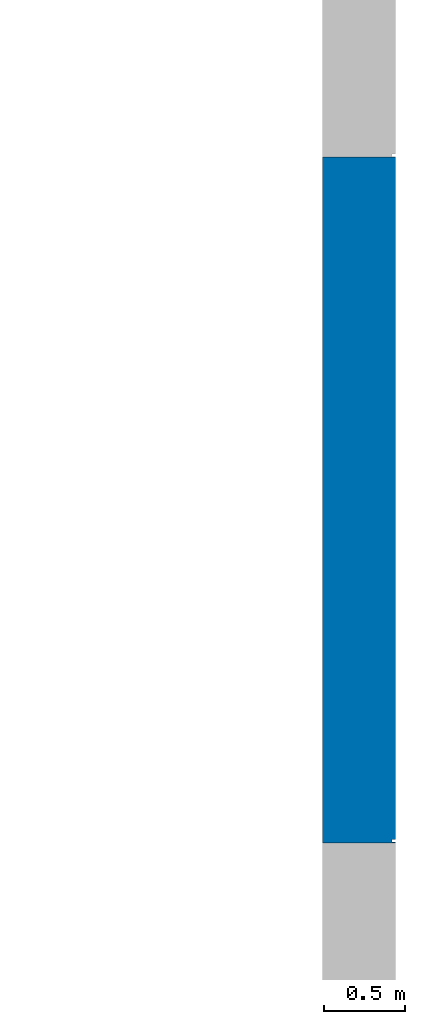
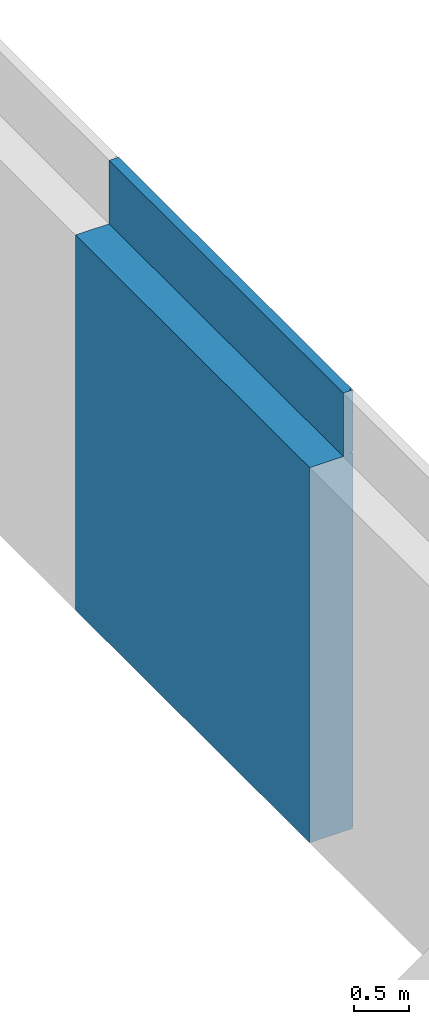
# One storey, part 19 of 33: 1 wall, 3 openings.
"""IFC2X3 building model written with IfcOpenShell, lengths in millimetres."""

import ifcopenshell
import ifcopenshell.guid

model = None  # the IFC model being written
_history = None  # IfcOwnerHistory: only IFC2X3 demands one
_inside = {}  # id of a spatial element -> (the spatial element, [elements in it])
_under = {}  # id of a project, library or spatial element -> (it, [spatial elements below it])
_declared = {}  # id of a project -> (the project, [libraries it declares])
_typed = {}  # id of a type object -> (the type object, [elements of that type])
_made_of = {}  # id of a material, layer set ... -> (it, [elements and type objects made of it])


def new_model(schema):
    """Start an empty IFC model of exactly this schema.

    Asked for "IFC4X3", IfcOpenShell would pick the latest addendum, in which some entities
    have other attributes; the version numbers below select the first issue.
    IFC2X3 requires an IfcOwnerHistory on every rooted entity: one is made here for all.
    """
    global model, _history
    if schema == "IFC4X3":
        model = ifcopenshell.file(schema_version=(4, 3, 0, 0))
    else:
        model = ifcopenshell.file(schema=schema)
    _inside.clear()
    _under.clear()
    _declared.clear()
    _typed.clear()
    _made_of.clear()
    _history = None
    if model.schema == "IFC2X3":
        org = make("IfcOrganization", Name="unknown")
        user = make(
            "IfcPersonAndOrganization",
            ThePerson=make("IfcPerson", FamilyName="unknown"),
            TheOrganization=org,
        )
        app = make(
            "IfcApplication",
            ApplicationDeveloper=org,
            Version="unknown",
            ApplicationFullName="unknown",
            ApplicationIdentifier="unknown",
        )
        _history = make(
            "IfcOwnerHistory",
            OwningUser=user,
            OwningApplication=app,
            ChangeAction="ADDED",
            CreationDate=0,
        )
    return model


def make(cls, **values):
    """One entity of the class cls with the attributes given. An attribute that is None is left unset."""
    return model.create_entity(
        cls, **{name: value for name, value in values.items() if value is not None}
    )


def entity(cls, *values):
    """Any entity or typed value of the class cls, its attributes in the order of the schema. None: left unset."""
    e = model.create_entity(cls)
    for i, value in enumerate(values):
        if value is not None:
            e[i] = value
    return e


def rooted(cls, **values):
    """An entity with a GlobalId (a new one), such as an element, a storey or a relation."""
    return make(cls, GlobalId=ifcopenshell.guid.new(), OwnerHistory=_history, **values)


def si_unit(unit_type, name, prefix=None):
    """IfcSIUnit, for example si_unit("LENGTHUNIT", "METRE", prefix="MILLI")."""
    return make("IfcSIUnit", UnitType=unit_type, Prefix=prefix, Name=name)


def converted_unit(unit_type, name, factor, base, dimensions=None, offset=None):
    """IfcConversionBasedUnit, such as the inch: factor (a typed value) times the base unit."""
    return make(
        "IfcConversionBasedUnit"
        if offset is None
        else "IfcConversionBasedUnitWithOffset",
        ConversionOffset=offset,
        Dimensions=None
        if dimensions is None
        else entity("IfcDimensionalExponents", *dimensions),
        UnitType=unit_type,
        Name=name,
        ConversionFactor=make(
            "IfcMeasureWithUnit", ValueComponent=factor, UnitComponent=base
        ),
    )


def derived_unit(unit_type, elements):
    """IfcDerivedUnit: a product of units, each with its exponent."""
    return make(
        "IfcDerivedUnit",
        Elements=[
            make("IfcDerivedUnitElement", Unit=unit, Exponent=power)
            for unit, power in elements
        ],
        UnitType=unit_type,
    )


def assignment(units):
    """IfcUnitAssignment: the units of a project."""
    return None if units is None else make("IfcUnitAssignment", Units=units)


def point(xyz):
    """IfcCartesianPoint."""
    return None if xyz is None else make("IfcCartesianPoint", Coordinates=xyz)


def direction(xyz):
    """IfcDirection."""
    return None if xyz is None else make("IfcDirection", DirectionRatios=xyz)


def frame(location, z_axis=None, x_axis=None):
    """IfcAxis2Placement3D, a coordinate frame: its origin and axes. An axis left out is left unset."""
    return make(
        "IfcAxis2Placement3D",
        Location=point(location),
        Axis=direction(z_axis),
        RefDirection=direction(x_axis),
    )


def frame_2d(location, x_axis=None):
    """IfcAxis2Placement2D, a coordinate frame in the plane: its origin and x axis."""
    return make(
        "IfcAxis2Placement2D", Location=point(location), RefDirection=direction(x_axis)
    )


def origin():
    """The frame at (0, 0, 0) with its axes left unset."""
    return frame((0.0, 0.0, 0.0))


def place(relative_to, where):
    """IfcLocalPlacement: puts the frame where relative to a parent placement (None: the world)."""
    return make(
        "IfcLocalPlacement", PlacementRelTo=relative_to, RelativePlacement=where
    )


def context(
    kind, dimensions, precision=None, world=None, true_north=None, identifier=None
):
    """IfcGeometricRepresentationContext, for example the 3D "Model" context."""
    return make(
        "IfcGeometricRepresentationContext",
        ContextIdentifier=identifier,
        ContextType=kind,
        CoordinateSpaceDimension=dimensions,
        Precision=precision,
        WorldCoordinateSystem=world,
        TrueNorth=true_north,
    )


def subcontext(parent, identifier, kind, view, scale=None):
    """IfcGeometricRepresentationSubContext, for example "Body" below "Model"."""
    return make(
        "IfcGeometricRepresentationSubContext",
        ContextIdentifier=identifier,
        ContextType=kind,
        ParentContext=parent,
        TargetScale=scale,
        TargetView=view,
    )


def project(units=None, contexts=None):
    """IfcProject with its units and contexts."""
    return rooted(
        "IfcProject",
        Name="project",
        RepresentationContexts=contexts,
        UnitsInContext=assignment(units),
    )


def spatial(cls, under=None, at=None, **own):
    """A site, building, storey or space (cls), placed at a placement, below another one or the project."""
    s = rooted(cls, ObjectPlacement=at, **own)
    if under is not None:
        _under.setdefault(under.id(), (under, []))[1].append(s)
    return s


def polyline(points):
    """IfcPolyline through the points."""
    return make("IfcPolyline", Points=[point(p) for p in points])


def profile(cls, at=None, kind="AREA", **sizes):
    """A parametric profile (cls). Its sizes go by their IFC names, for example OverallWidth=200.0."""
    return make(cls, ProfileType=kind, Position=at, **sizes)


def rectangle(**sizes):
    """IfcRectangleProfileDef."""
    return profile("IfcRectangleProfileDef", **sizes)


def extrude(swept, where, along, depth):
    """IfcExtrudedAreaSolid: the profile swept, set in the frame where, extruded along a direction by depth."""
    return make(
        "IfcExtrudedAreaSolid",
        SweptArea=swept,
        Position=where,
        ExtrudedDirection=direction(along),
        Depth=depth,
    )


def clip(a, b, op="DIFFERENCE"):
    """IfcBooleanClippingResult: the solid a cut by the half space b."""
    return make(
        "IfcBooleanClippingResult", Operator=op, FirstOperand=a, SecondOperand=b
    )


def bounded_halfspace(plane, agree, where, boundary):
    """IfcPolygonalBoundedHalfSpace: a half space limited to a polygon's prism."""
    return make(
        "IfcPolygonalBoundedHalfSpace",
        BaseSurface=make("IfcPlane", Position=plane),
        AgreementFlag=agree,
        Position=where,
        PolygonalBoundary=boundary,
    )


def faces_of(points, faces, orient=None, outer=None):
    """IfcFace entities. A face is a list of loops; a loop is a list of indices into points, from 0.

    orient and outer hold one flag for each loop. By default every Orientation is true, the
    first loop of a face is its IfcFaceOuterBound and the others are IfcFaceBound.
    """
    made = []
    for i, loops in enumerate(faces):
        bounds = []
        for j, loop in enumerate(loops):
            is_outer = j == 0 if outer is None else outer[i][j]
            bounds.append(
                make(
                    "IfcFaceOuterBound" if is_outer else "IfcFaceBound",
                    Bound=make("IfcPolyLoop", Polygon=[points[k] for k in loop]),
                    Orientation=True if orient is None else orient[i][j],
                )
            )
        made.append(make("IfcFace", Bounds=bounds))
    return made


def faceted_brep(points, faces, orient=None, outer=None, voids=None):
    """IfcFacetedBrep: a solid bounded by flat faces; with voids (closed shells), ...WithVoids."""
    shared = [point(p) for p in points]
    hull = make("IfcClosedShell", CfsFaces=faces_of(shared, faces, orient, outer))
    if voids is None:
        return make("IfcFacetedBrep", Outer=hull)
    return make(
        "IfcFacetedBrepWithVoids",
        Outer=hull,
        Voids=[
            make(cls, CfsFaces=faces_of(shared, fs, o, b)) for cls, fs, o, b in voids
        ],
    )


def shape(context_of_items, identifier, shape_type, items):
    """IfcShapeRepresentation: the items that make up one representation, for example the "Body"."""
    return make(
        "IfcShapeRepresentation",
        ContextOfItems=context_of_items,
        RepresentationIdentifier=identifier,
        RepresentationType=shape_type,
        Items=items,
    )


def material(Name=None, Category=None):
    """IfcMaterial."""
    return make("IfcMaterial", Name=Name, Category=Category)


def layer(
    of_material, thickness, ventilated=None, Name=None, Category=None, Priority=None
):
    """IfcMaterialLayer: one layer of a wall or slab, of a material (None: an air gap)."""
    return make(
        "IfcMaterialLayer",
        Material=of_material,
        LayerThickness=thickness,
        IsVentilated=ventilated,
        Name=Name,
        Category=Category,
        Priority=Priority,
    )


def layer_set(layers, Name=None):
    """IfcMaterialLayerSet."""
    return make("IfcMaterialLayerSet", MaterialLayers=layers, LayerSetName=Name)


def layer_usage(for_layer_set, set_direction, sense, offset, extent=None):
    """IfcMaterialLayerSetUsage: how a layer set lies in its element."""
    return make(
        "IfcMaterialLayerSetUsage",
        ForLayerSet=for_layer_set,
        LayerSetDirection=set_direction,
        DirectionSense=sense,
        OffsetFromReferenceLine=offset,
        ReferenceExtent=extent,
    )


def made_of(thing, what):
    """Note that an element or type object is made of a material, layer set ...; save() writes the relation."""
    if what is not None:
        _made_of.setdefault(what.id(), (what, []))[1].append(thing)
    return thing


def type_object(cls, material=None, **own):
    """A type object (cls), such as IfcWallType, which elements share."""
    return made_of(rooted(cls, **own), material)


def element(
    cls,
    number,
    at=None,
    inside=None,
    cuts=None,
    type_object=None,
    material=None,
    context=None,
    identifier="Body",
    shape_type=None,
    held_by="IfcProductDefinitionShape",
    body=None,
    shapes=None,
    **own,
):
    """One element of the class cls, such as IfcWall. Its Tag is "e" and its number.

    at: its placement. inside: the storey or other place that contains it. cuts: it is an
    opening in that element (IfcRelVoidsElement). A single representation is given by context,
    identifier, shape_type and body (its items); several are given by shapes. held_by: the class
    of the entity that holds the representations. save() writes the other relations.
    """
    e = rooted(cls, Tag="e%d" % number, ObjectPlacement=at, **own)
    if body is not None:
        shapes = [shape(context, identifier, shape_type, body)]
    if shapes is not None:
        e.Representation = make(held_by, Representations=shapes)
    if inside is not None:
        _inside.setdefault(inside.id(), (inside, []))[1].append(e)
    if cuts is not None:
        rooted(
            "IfcRelVoidsElement", RelatingBuildingElement=cuts, RelatedOpeningElement=e
        )
    if type_object is not None:
        _typed.setdefault(type_object.id(), (type_object, []))[1].append(e)
    return made_of(e, material)


def aggregate(whole, parts):
    """IfcRelAggregates: a whole, such as a stair, and the parts it consists of."""
    return rooted("IfcRelAggregates", RelatingObject=whole, RelatedObjects=parts)


def save(model, path):
    """Write the relations noted so far, then the file.

    IfcRelAggregates (storeys below a building ...), IfcRelContainedInSpatialStructure (elements
    in a storey), IfcRelDefinesByType, IfcRelAssociatesMaterial and IfcRelDeclares: one each for
    every whole, place, type object, material and project.
    """
    for whole, parts in _under.values():
        aggregate(whole, parts)
    for where, things in _inside.values():
        rooted(
            "IfcRelContainedInSpatialStructure",
            RelatedElements=things,
            RelatingStructure=where,
        )
    for kind, things in _typed.values():
        rooted("IfcRelDefinesByType", RelatedObjects=things, RelatingType=kind)
    for what, things in _made_of.values():
        rooted("IfcRelAssociatesMaterial", RelatedObjects=things, RelatingMaterial=what)
    for by, libraries in _declared.values():
        rooted("IfcRelDeclares", RelatingContext=by, RelatedDefinitions=libraries)
    model.write(path)


model = new_model("IFC2X3")

# Units and contexts
model_context = context("Model", 3, precision=0.01, world=origin(), true_north=direction((6.12303176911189e-17, 1.0)))
body_context = subcontext(model_context, "Body", "Model", "MODEL_VIEW")
ifc_project = project(units=[si_unit("LENGTHUNIT", "METRE", prefix="MILLI"), si_unit("AREAUNIT", "SQUARE_METRE"), si_unit("VOLUMEUNIT", "CUBIC_METRE"), converted_unit("PLANEANGLEUNIT", "DEGREE", entity("IfcRatioMeasure", 0.0174532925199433), si_unit("PLANEANGLEUNIT", "RADIAN"), dimensions=[0, 0, 0, 0, 0, 0, 0]), si_unit("MASSUNIT", "GRAM", prefix="KILO"), derived_unit("MASSDENSITYUNIT", [(si_unit("MASSUNIT", "GRAM", prefix="KILO"), 1), (si_unit("LENGTHUNIT", "METRE"), -3)]), si_unit("TIMEUNIT", "SECOND"), si_unit("FREQUENCYUNIT", "HERTZ"), si_unit("THERMODYNAMICTEMPERATUREUNIT", "DEGREE_CELSIUS"), derived_unit("THERMALTRANSMITTANCEUNIT", [(si_unit("MASSUNIT", "GRAM", prefix="KILO"), 1), (si_unit("THERMODYNAMICTEMPERATUREUNIT", "KELVIN"), -1), (si_unit("TIMEUNIT", "SECOND"), -3)]), derived_unit("VOLUMETRICFLOWRATEUNIT", [(si_unit("LENGTHUNIT", "METRE"), 3), (si_unit("TIMEUNIT", "SECOND"), -1)]), si_unit("ELECTRICCURRENTUNIT", "AMPERE"), si_unit("ELECTRICVOLTAGEUNIT", "VOLT"), si_unit("POWERUNIT", "WATT"), si_unit("FORCEUNIT", "NEWTON", prefix="KILO"), si_unit("ILLUMINANCEUNIT", "LUX"), si_unit("LUMINOUSFLUXUNIT", "LUMEN"), si_unit("LUMINOUSINTENSITYUNIT", "CANDELA"), derived_unit("USERDEFINED", [(si_unit("MASSUNIT", "GRAM", prefix="KILO"), -1), (si_unit("LENGTHUNIT", "METRE"), -2), (si_unit("TIMEUNIT", "SECOND"), 3), (si_unit("LUMINOUSFLUXUNIT", "LUMEN"), 1)]), derived_unit("LINEARVELOCITYUNIT", [(si_unit("LENGTHUNIT", "METRE"), 1), (si_unit("TIMEUNIT", "SECOND"), -1)]), si_unit("PRESSUREUNIT", "PASCAL"), derived_unit("USERDEFINED", [(si_unit("LENGTHUNIT", "METRE"), -2), (si_unit("MASSUNIT", "GRAM", prefix="KILO"), 1), (si_unit("TIMEUNIT", "SECOND"), -2)])], contexts=[model_context])

# Site, building, storey
site_placement = place(None, origin())
site = spatial("IfcSite", under=ifc_project, at=site_placement, Name="Default", CompositionType="ELEMENT")
building_placement = place(site_placement, origin())
building = spatial("IfcBuilding", under=site, at=building_placement, CompositionType="ELEMENT")
storey_placement = place(building_placement, frame((0.0, 0.0, 4000.0)))
storey = spatial("IfcBuildingStorey", under=building, at=storey_placement, Name="2. KORRUS", CompositionType="ELEMENT", Elevation=4000.0)

# Wall, openings
ifc_material_1 = material(Name="RECKLI 1 173 THUR by Polantis 2016-toon3")
ifc_layer_1 = layer(ifc_material_1, 100.0)
ifc_material_2 = material(Name="Soojusisolatsioon EPS")
ifc_layer_2 = layer(ifc_material_2, 200.0)
ifc_material_3 = material(Name="r/b")
ifc_layer_3 = layer(ifc_material_3, 150.0)
ifc_layer_set = layer_set([ifc_layer_1, ifc_layer_2, ifc_layer_3], Name="Basic Wall:VS-1_toon-b")
ifc_layer_usage = layer_usage(ifc_layer_set, "AXIS2", "NEGATIVE", 225.0)
wall_type = type_object("IfcWallType", Name="Basic Wall:VS-1_toon-b", PredefinedType="STANDARD", material=ifc_layer_set)
wall_placement = place(storey_placement, frame((39725.0, 8643.33, -135.0), z_axis=(0.0, 0.0, 1.0), x_axis=(0.0, -1.0, 0.0)))
wall = element("IfcWallStandardCase", 1, at=wall_placement, inside=storey, type_object=wall_type, material=ifc_layer_usage, Name="Basic Wall:VS-1_toon-b", ObjectType="Basic Wall:VS-1_toon-b", context=body_context, shape_type="Clipping", body=[
    clip(extrude(rectangle(XDim=4228.33000000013, YDim=450.000000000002, at=frame_2d((2114.16500000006, 3.45323769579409e-12), x_axis=(-1.0, 0.0))), origin(), (0.0, 0.0, 1.0), 4835.0), bounded_halfspace(frame((0.0, -225.0, 4135.0), z_axis=(0.0, 0.0, 1.0), x_axis=(0.0, 1.0, 0.0)), False, frame((0.0, -225.0, 4135.0)), polyline([(0.0, 0.0), (4228.33000000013, 0.0), (4228.33000000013, 350.0), (0.0, 350.0), (0.0, 0.0)]))),
])
opening_1_placement = place(wall_placement, origin())
element("IfcOpeningElement", 2, at=opening_1_placement, cuts=wall, Name="Basic Wall:VS-1_toon-b", ObjectType="Recess", context=body_context, shape_type="SweptSolid", body=[
    extrude(rectangle(XDim=4265.0, YDim=16.0000000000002, at=frame_2d((0.0, -2.70450328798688e-13), x_axis=(1.0, 0.0))), frame((4214.66, 205.0, -2132.5), z_axis=(0.0, 1.0, 0.0), x_axis=(0.0, 0.0, 1.0)), (0.0, 0.0, 1.0), 20.0000000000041),
    extrude(rectangle(XDim=4835.0, YDim=16.0000000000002, at=frame_2d((0.0, -2.70450328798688e-13), x_axis=(1.0, 0.0))), frame((4214.66, 205.0, 2417.5), z_axis=(0.0, 1.0, 0.0), x_axis=(0.0, 0.0, 1.0)), (0.0, 0.0, 1.0), 20.0000000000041),
])
opening_2_placement = place(wall_placement, frame((9093.33000000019, -40175.0, 4.0)))
element("IfcOpeningElement", 3, at=opening_2_placement, cuts=wall, Name="Basic Wall:VS-1_toon-b", ObjectType="Opening", context=body_context, shape_type="Brep", body=[
    faceted_brep([(-20.0, 11850.0, 16.0), (0.0, 11850.0, 16.0), (0.0, 11850.0, 0.0), (-20.0, 11850.0, 0.0), (-20.0, 4260.0, 16.0), (-20.0, 4260.0, 0.0), (0.0, 4260.0, 0.0), (0.0, 4260.0, 16.0)], [[[0, 1, 2, 3]], [[4, 5, 6, 7]], [[1, 0, 4, 7]], [[2, 1, 7, 6]], [[3, 2, 6, 5]], [[0, 3, 5, 4]]]),
    faceted_brep([(-28480.0, 20.0, 16.0), (-28480.0, 20.0, 0.0), (-28500.0, 0.0, 0.0), (-28500.0, 0.0, 16.0), (-23740.0, 20.0, 16.0), (-23740.0, 0.0, 16.0), (-23740.0, 0.0, 0.0), (-23740.0, 20.0, 0.0)], [[[0, 1, 2, 3]], [[4, 5, 6, 7]], [[1, 0, 4, 7]], [[2, 1, 7, 6]], [[3, 2, 6, 5]], [[0, 3, 5, 4]]]),
    faceted_brep([(-22380.0517807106, 10080.0, 16.0), (-22400.0517807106, 10100.0, 16.0), (-22400.0517807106, 10100.0, 0.0), (-22380.0517807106, 10080.0, 0.0), (-22380.0517807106, 15330.3475962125, 16.0), (-22380.0517807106, 15330.3475962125, 0.0), (-22400.0517807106, 15330.3475962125, 0.0), (-22400.0517807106, 15330.3475962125, 16.0)], [[[0, 1, 2, 3]], [[4, 5, 6, 7]], [[1, 0, 4, 7]], [[2, 1, 7, 6]], [[3, 2, 6, 5]], [[0, 3, 5, 4]]]),
    faceted_brep([(-28480.0, 20.0, 16.0), (-28500.0, 0.0, 16.0), (-28500.0, 0.0, 0.0), (-28480.0, 20.0, 0.0), (-28480.0, 4360.0, 16.0), (-28480.0, 4360.0, 0.0), (-28500.0, 4360.0, 0.0), (-28500.0, 4360.0, 16.0)], [[[0, 1, 2, 3]], [[4, 5, 6, 7]], [[1, 0, 4, 7]], [[2, 1, 7, 6]], [[3, 2, 6, 5]], [[0, 3, 5, 4]]]),
    faceted_brep([(-20.0, 40380.0, 16.0), (0.0, 40400.0, 16.0), (0.0, 40400.0, 0.0), (-20.0, 40380.0, 0.0), (-20.0, 35250.0, 16.0), (-20.0, 35250.0, 0.0), (0.0, 35250.0, 0.0), (0.0, 35250.0, 16.0)], [[[0, 1, 2, 3]], [[4, 5, 6, 7]], [[1, 0, 4, 7]], [[2, 1, 7, 6]], [[3, 2, 6, 5]], [[0, 3, 5, 4]]]),
    faceted_brep([(-22380.0517807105, 34420.1035702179, 16.0), (-22400.0517807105, 34420.1035702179, 16.0), (-22400.0517807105, 34420.1035702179, 0.0), (-22380.0517807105, 34420.1035702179, 0.0), (-22380.0517807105, 40380.0, 16.0), (-22380.0517807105, 40380.0, 0.0), (-22400.0517807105, 40400.0, 0.0), (-22400.0517807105, 40400.0, 16.0)], [[[0, 1, 2, 3]], [[4, 5, 6, 7]], [[1, 0, 4, 7]], [[2, 1, 7, 6]], [[3, 2, 6, 5]], [[0, 3, 5, 4]]]),
    faceted_brep([(-22380.0517807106, 29113.2161487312, 16.0), (-22400.0517807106, 29113.2161487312, 16.0), (-22400.0517807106, 29113.2161487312, 0.0), (-22380.0517807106, 29113.2161487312, 0.0), (-22380.0517807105, 34420.1035702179, 16.0), (-22380.0517807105, 34420.1035702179, 0.0), (-22400.0517807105, 34420.1035702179, 0.0), (-22400.0517807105, 34420.1035702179, 16.0)], [[[0, 1, 2, 3]], [[4, 5, 6, 7]], [[1, 0, 4, 7]], [[2, 1, 7, 6]], [[3, 2, 6, 5]], [[0, 3, 5, 4]]]),
    faceted_brep([(-28480.0, 10080.0, 16.0), (-28500.0, 10100.0, 16.0), (-28500.0, 10100.0, 0.0), (-28480.0, 10080.0, 0.0), (-22380.0517807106, 10080.0, 16.0), (-22380.0517807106, 10080.0, 0.0), (-22400.0517807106, 10100.0, 0.0), (-22400.0517807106, 10100.0, 16.0)], [[[0, 1, 2, 3]], [[4, 5, 6, 7]], [[1, 0, 4, 7]], [[2, 1, 7, 6]], [[3, 2, 6, 5]], [[0, 3, 5, 4]]]),
    faceted_brep([(-20.0, 4260.0, 16.0), (0.0, 4260.0, 16.0), (0.0, 4260.0, 0.0), (-20.0, 4260.0, 0.0), (-20.0, 0.0, 16.0), (-20.0, 0.0, 0.0), (0.0, 0.0, 0.0), (0.0, 0.0, 16.0)], [[[0, 1, 2, 3]], [[4, 5, 6, 7]], [[1, 0, 4, 7]], [[2, 1, 7, 6]], [[3, 2, 6, 5]], [[0, 3, 5, 4]]]),
    faceted_brep([(-4865.0, 40380.0, 16.0), (-4865.0, 40400.0, 16.0), (-4865.0, 40400.0, 0.0), (-4865.0, 40380.0, 0.0), (-20.0, 40380.0, 16.0), (-20.0, 40380.0, 0.0), (0.0, 40400.0, 0.0), (0.0, 40400.0, 16.0)], [[[0, 1, 2, 3]], [[4, 5, 6, 7]], [[1, 0, 4, 7]], [[2, 1, 7, 6]], [[3, 2, 6, 5]], [[0, 3, 5, 4]]]),
    faceted_brep([(-9093.3300000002, 40380.0, 16.0), (-9093.3300000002, 40400.0, 16.0), (-9093.3300000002, 40400.0, 0.0), (-9093.3300000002, 40380.0, 0.0), (-4865.0, 40380.0, 16.0), (-4865.0, 40380.0, 0.0), (-4865.0, 40400.0, 0.0), (-4865.0, 40400.0, 16.0)], [[[0, 1, 2, 3]], [[4, 5, 6, 7]], [[1, 0, 4, 7]], [[2, 1, 7, 6]], [[3, 2, 6, 5]], [[0, 3, 5, 4]]]),
    faceted_brep([(-13210.0, 40380.0, 16.0), (-13210.0, 40400.0, 16.0), (-13210.0, 40400.0, 0.0), (-13210.0, 40380.0, 0.0), (-9093.3300000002, 40380.0, 16.0), (-9093.3300000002, 40380.0, 0.0), (-9093.3300000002, 40400.0, 0.0), (-9093.3300000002, 40400.0, 16.0)], [[[0, 1, 2, 3]], [[4, 5, 6, 7]], [[1, 0, 4, 7]], [[2, 1, 7, 6]], [[3, 2, 6, 5]], [[0, 3, 5, 4]]]),
    faceted_brep([(-16240.0, 40380.0, 16.0), (-16240.0, 40400.0, 16.0), (-16240.0, 40400.0, 0.0), (-16240.0, 40380.0, 0.0), (-13210.0, 40380.0, 16.0), (-13210.0, 40380.0, 0.0), (-13210.0, 40400.0, 0.0), (-13210.0, 40400.0, 16.0)], [[[0, 1, 2, 3]], [[4, 5, 6, 7]], [[1, 0, 4, 7]], [[2, 1, 7, 6]], [[3, 2, 6, 5]], [[0, 3, 5, 4]]]),
    faceted_brep([(-22380.0517807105, 40380.0, 16.0), (-22400.0517807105, 40400.0, 16.0), (-22400.0517807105, 40400.0, 0.0), (-22380.0517807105, 40380.0, 0.0), (-16240.0, 40380.0, 16.0), (-16240.0, 40380.0, 0.0), (-16240.0, 40400.0, 0.0), (-16240.0, 40400.0, 16.0)], [[[0, 1, 2, 3]], [[4, 5, 6, 7]], [[1, 0, 4, 7]], [[2, 1, 7, 6]], [[3, 2, 6, 5]], [[0, 3, 5, 4]]]),
    faceted_brep([(-22380.0517807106, 22535.0, 16.0), (-22400.0517807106, 22535.0, 16.0), (-22400.0517807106, 22535.0, 0.0), (-22380.0517807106, 22535.0, 0.0), (-22380.0517807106, 29113.2161487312, 16.0), (-22380.0517807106, 29113.2161487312, 0.0), (-22400.0517807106, 29113.2161487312, 0.0), (-22400.0517807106, 29113.2161487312, 16.0)], [[[0, 1, 2, 3]], [[4, 5, 6, 7]], [[1, 0, 4, 7]], [[2, 1, 7, 6]], [[3, 2, 6, 5]], [[0, 3, 5, 4]]]),
    faceted_brep([(-22380.0517807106, 18703.3528910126, 16.0), (-22400.0517807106, 18703.3528910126, 16.0), (-22400.0517807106, 18703.3528910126, 0.0), (-22380.0517807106, 18703.3528910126, 0.0), (-22380.0517807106, 22535.0, 16.0), (-22380.0517807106, 22535.0, 0.0), (-22400.0517807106, 22535.0, 0.0), (-22400.0517807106, 22535.0, 16.0)], [[[0, 1, 2, 3]], [[4, 5, 6, 7]], [[1, 0, 4, 7]], [[2, 1, 7, 6]], [[3, 2, 6, 5]], [[0, 3, 5, 4]]]),
    faceted_brep([(-22380.0517807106, 15330.3475962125, 16.0), (-22400.0517807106, 15330.3475962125, 16.0), (-22400.0517807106, 15330.3475962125, 0.0), (-22380.0517807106, 15330.3475962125, 0.0), (-22380.0517807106, 18703.3528910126, 16.0), (-22380.0517807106, 18703.3528910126, 0.0), (-22400.0517807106, 18703.3528910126, 0.0), (-22400.0517807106, 18703.3528910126, 16.0)], [[[0, 1, 2, 3]], [[4, 5, 6, 7]], [[1, 0, 4, 7]], [[2, 1, 7, 6]], [[3, 2, 6, 5]], [[0, 3, 5, 4]]]),
    faceted_brep([(-28480.0, 4360.0, 16.0), (-28500.0, 4360.0, 16.0), (-28500.0, 4360.0, 0.0), (-28480.0, 4360.0, 0.0), (-28480.0, 10080.0, 16.0), (-28480.0, 10080.0, 0.0), (-28500.0, 10100.0, 0.0), (-28500.0, 10100.0, 16.0)], [[[0, 1, 2, 3]], [[4, 5, 6, 7]], [[1, 0, 4, 7]], [[2, 1, 7, 6]], [[3, 2, 6, 5]], [[0, 3, 5, 4]]]),
    faceted_brep([(-23740.0, 20.0, 16.0), (-23740.0, 20.0, 0.0), (-23740.0, 0.0, 0.0), (-23740.0, 0.0, 16.0), (-16890.0006972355, 20.0, 16.0), (-16890.0006972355, 0.0, 16.0), (-16890.0006972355, 0.0, 0.0), (-16890.0006972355, 20.0, 0.0)], [[[0, 1, 2, 3]], [[4, 5, 6, 7]], [[1, 0, 4, 7]], [[2, 1, 7, 6]], [[3, 2, 6, 5]], [[0, 3, 5, 4]]]),
    faceted_brep([(-16890.0006972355, 20.0, 16.0), (-16890.0006972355, 20.0, 0.0), (-16890.0006972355, 0.0, 0.0), (-16890.0006972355, 0.0, 16.0), (-13460.0, 20.0, 16.0), (-13460.0, 0.0, 16.0), (-13460.0, 0.0, 0.0), (-13460.0, 20.0, 0.0)], [[[0, 1, 2, 3]], [[4, 5, 6, 7]], [[1, 0, 4, 7]], [[2, 1, 7, 6]], [[3, 2, 6, 5]], [[0, 3, 5, 4]]]),
])
opening_3_placement = place(wall_placement, origin())
element("IfcOpeningElement", 4, at=opening_3_placement, cuts=wall, Name="Basic Wall:VS-1_toon-b", ObjectType="Recess", context=body_context, shape_type="SweptSolid", body=[
    extrude(rectangle(XDim=15.9999999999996, YDim=20.0, at=frame_2d((-3.37507799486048e-14, 5.40900657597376e-13), x_axis=(0.0, 1.0))), frame((9083.33000000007, -35915.0, 4147.0), z_axis=(0.0, 1.0, 0.0), x_axis=(1.0, 0.0, 0.0)), (0.0, 0.0, 1.0), 7590.0),
    extrude(rectangle(XDim=15.9999999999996, YDim=4660.0, at=frame_2d((-2.27373675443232e-12, 5.40900657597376e-13), x_axis=(0.0, 1.0))), frame((-16976.67, -40175.0, 4147.0), z_axis=(0.0, 1.0, 0.0), x_axis=(1.0, 0.0, 0.0)), (0.0, 0.0, 1.0), 20.0000000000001),
    extrude(rectangle(XDim=15.9999999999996, YDim=19.9999999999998, at=frame_2d((5.40900657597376e-13, -2.16626716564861e-12), x_axis=(1.0, 0.0))), frame((-13296.7217807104, -30075.0, 4147.0), z_axis=(0.0, 1.0, 0.0), x_axis=(0.0, 0.0, -1.0)), (0.0, 0.0, 1.0), 5230.3475962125),
    extrude(rectangle(XDim=15.9999999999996, YDim=19.9999999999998, at=frame_2d((5.40900657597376e-13, -2.16626716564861e-12), x_axis=(1.0, 0.0))), frame((-19396.67, -40175.0, 4147.0), z_axis=(0.0, 1.0, 0.0), x_axis=(0.0, 0.0, -1.0)), (0.0, 0.0, 1.0), 4360.0),
    extrude(rectangle(XDim=15.9999999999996, YDim=20.0, at=frame_2d((-3.37507799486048e-14, -5.40900657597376e-13), x_axis=(0.0, 1.0))), frame((9083.33000000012, -4925.0, 4147.0), z_axis=(0.0, 1.0, 0.0), x_axis=(1.0, 0.0, 0.0)), (0.0, 0.0, 1.0), 5050.0),
    extrude(rectangle(XDim=15.9999999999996, YDim=19.9999999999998, at=frame_2d((5.40900657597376e-13, -2.16626716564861e-12), x_axis=(1.0, 0.0))), frame((-13296.7217807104, -5754.89642978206, 4147.0), z_axis=(0.0, 1.0, 0.0), x_axis=(0.0, 0.0, -1.0)), (0.0, 0.0, 1.0), 5979.89642978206),
    extrude(rectangle(XDim=15.9999999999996, YDim=19.9999999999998, at=frame_2d((5.40900657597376e-13, -2.16626716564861e-12), x_axis=(1.0, 0.0))), frame((-13296.7217807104, -11061.7838512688, 4147.0), z_axis=(0.0, 1.0, 0.0), x_axis=(0.0, 0.0, -1.0)), (0.0, 0.0, 1.0), 5306.88742148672),
    extrude(rectangle(XDim=15.9999999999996, YDim=6099.94821928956, at=frame_2d((0.0, 0.0), x_axis=(0.0, 1.0))), frame((-16256.6958903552, -30095.0, 4147.0), z_axis=(0.0, 1.0, 0.0), x_axis=(1.0, 0.0, 0.0)), (0.0, 0.0, 1.0), 19.9999999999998),
    extrude(rectangle(XDim=15.9999999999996, YDim=20.0, at=frame_2d((-3.37507799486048e-14, 5.40900657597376e-13), x_axis=(0.0, 1.0))), frame((9083.33000000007, -40075.0, 4147.0), z_axis=(0.0, 1.0, 0.0), x_axis=(1.0, 0.0, 0.0)), (0.0, 0.0, 1.0), 4160.00000000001),
    extrude(rectangle(XDim=15.9999999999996, YDim=4865.0, at=frame_2d((0.0, 5.40900657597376e-13), x_axis=(0.0, 1.0))), frame((6660.83000000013, 205.0, 4147.0), z_axis=(0.0, 1.0, 0.0), x_axis=(1.0, 0.0, 0.0)), (0.0, 0.0, 1.0), 20.0000000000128),
    extrude(rectangle(XDim=15.9999999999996, YDim=4228.33000000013, at=frame_2d((0.0, 0.0), x_axis=(0.0, 1.0))), frame((2114.16500000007, 205.0, 4147.0), z_axis=(0.0, 1.0, 0.0), x_axis=(1.0, 0.0, 0.0)), (0.0, 0.0, 1.0), 20.0000000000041),
    extrude(rectangle(XDim=15.9999999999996, YDim=4236.66999997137, at=frame_2d((1.13686837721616e-12, 0.0), x_axis=(0.0, 1.0))), frame((-2118.33499998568, 205.0, 4147.0), z_axis=(0.0, 1.0, 0.0), x_axis=(1.0, 0.0, 0.0)), (0.0, 0.0, 1.0), 19.9999999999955),
    extrude(rectangle(XDim=15.9999999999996, YDim=2910.00000002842, at=frame_2d((2.1600499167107e-12, 5.40900657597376e-13), x_axis=(0.0, 1.0))), frame((-5691.66999998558, 205.0, 4147.0), z_axis=(0.0, 1.0, 0.0), x_axis=(1.0, 0.0, 0.0)), (0.0, 0.0, 1.0), 20.0000000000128),
    extrude(rectangle(XDim=15.9999999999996, YDim=6060.05178071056, at=frame_2d((0.0, 0.0), x_axis=(0.0, 1.0))), frame((-10176.6958903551, 205.0, 4147.0), z_axis=(0.0, 1.0, 0.0), x_axis=(1.0, 0.0, 0.0)), (0.0, 0.0, 1.0), 19.9999999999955),
    extrude(rectangle(XDim=15.9999999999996, YDim=19.9999999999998, at=frame_2d((5.40900657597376e-13, -2.16626716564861e-12), x_axis=(1.0, 0.0))), frame((-13296.7217807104, -21471.6471089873, 4147.0), z_axis=(0.0, 1.0, 0.0), x_axis=(0.0, 0.0, -1.0)), (0.0, 0.0, 1.0), 3831.64710898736),
    extrude(rectangle(XDim=15.9999999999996, YDim=19.9999999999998, at=frame_2d((5.40900657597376e-13, -2.16626716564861e-12), x_axis=(1.0, 0.0))), frame((-13296.7217807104, -24844.6524037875, 4147.0), z_axis=(0.0, 1.0, 0.0), x_axis=(0.0, 0.0, -1.0)), (0.0, 0.0, 1.0), 3373.00529480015),
    extrude(rectangle(XDim=15.9999999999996, YDim=19.9999999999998, at=frame_2d((5.40900657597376e-13, 2.16626716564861e-12), x_axis=(1.0, 0.0))), frame((-19396.67, -35815.0, 4147.0), z_axis=(0.0, 1.0, 0.0), x_axis=(0.0, 0.0, -1.0)), (0.0, 0.0, 1.0), 5739.99999999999),
    extrude(rectangle(XDim=15.9999999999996, YDim=6849.99930276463, at=frame_2d((1.13686837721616e-12, 5.40900657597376e-13), x_axis=(0.0, 1.0))), frame((-11221.6703486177, -40175.0, 4147.0), z_axis=(0.0, 1.0, 0.0), x_axis=(1.0, 0.0, 0.0)), (0.0, 0.0, 1.0), 20.0),
    extrude(rectangle(XDim=15.9999999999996, YDim=3430.00069726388, at=frame_2d((1.02318153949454e-12, 5.40900657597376e-13), x_axis=(0.0, 1.0))), frame((-6081.6703486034, -40175.0, 4147.0), z_axis=(0.0, 1.0, 0.0), x_axis=(1.0, 0.0, 0.0)), (0.0, 0.0, 1.0), 20.0000000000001),
    extrude(rectangle(XDim=15.9999999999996, YDim=19.9999999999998, at=frame_2d((5.40900657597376e-13, -2.16626716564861e-12), x_axis=(1.0, 0.0))), frame((-13296.7217807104, -17640.0, 4147.0), z_axis=(0.0, 1.0, 0.0), x_axis=(0.0, 0.0, -1.0)), (0.0, 0.0, 1.0), 6578.21614873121),
    extrude(rectangle(XDim=15.9999999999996, YDim=20.0, at=frame_2d((-3.37507799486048e-14, 5.40900657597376e-13), x_axis=(0.0, 1.0))), frame((9083.33000000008, -28325.0, 4147.0), z_axis=(0.0, 1.0, 0.0), x_axis=(1.0, 0.0, 0.0)), (0.0, 0.0, 1.0), 4110.00000000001),
    extrude(rectangle(XDim=15.9999999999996, YDim=20.0, at=frame_2d((-3.37507799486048e-14, 5.40900657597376e-13), x_axis=(0.0, 1.0))), frame((9083.33000000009, -24215.0, 4147.0), z_axis=(0.0, 1.0, 0.0), x_axis=(1.0, 0.0, 0.0)), (0.0, 0.0, 1.0), 4600.0),
    extrude(rectangle(XDim=15.9999999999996, YDim=20.0, at=frame_2d((3.37507799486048e-14, 5.40900657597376e-13), x_axis=(0.0, 1.0))), frame((9083.3300000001, -19615.0, 4147.0), z_axis=(0.0, 1.0, 0.0), x_axis=(1.0, 0.0, 0.0)), (0.0, 0.0, 1.0), 4600.0),
    extrude(rectangle(XDim=15.9999999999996, YDim=20.0, at=frame_2d((3.37507799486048e-14, 5.40900657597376e-13), x_axis=(0.0, 1.0))), frame((9083.33000000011, -15015.0, 4147.0), z_axis=(0.0, 1.0, 0.0), x_axis=(1.0, 0.0, 0.0)), (0.0, 0.0, 1.0), 5299.99999999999),
    extrude(rectangle(XDim=15.9999999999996, YDim=20.0, at=frame_2d((-3.37507799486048e-14, 5.40900657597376e-13), x_axis=(0.0, 1.0))), frame((9083.33000000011, -9715.0, 4147.0), z_axis=(0.0, 1.0, 0.0), x_axis=(1.0, 0.0, 0.0)), (0.0, 0.0, 1.0), 4790.0),
    extrude(rectangle(XDim=15.9999999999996, YDim=4724.85920481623, at=frame_2d((6.82121026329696e-13, 5.40900657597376e-13), x_axis=(0.0, 1.0))), frame((-2004.24039756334, -40175.0, 4147.0), z_axis=(0.0, 1.0, 0.0), x_axis=(1.0, 0.0, 0.0)), (0.0, 0.0, 1.0), 20.0000000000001),
    extrude(rectangle(XDim=15.9999999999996, YDim=8735.1407951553, at=frame_2d((0.0, 5.40900657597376e-13), x_axis=(0.0, 1.0))), frame((4725.75960242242, -40175.0, 4147.0), z_axis=(0.0, 1.0, 0.0), x_axis=(1.0, 0.0, 0.0)), (0.0, 0.0, 1.0), 20.0),
])

save(model, "model.ifc")
